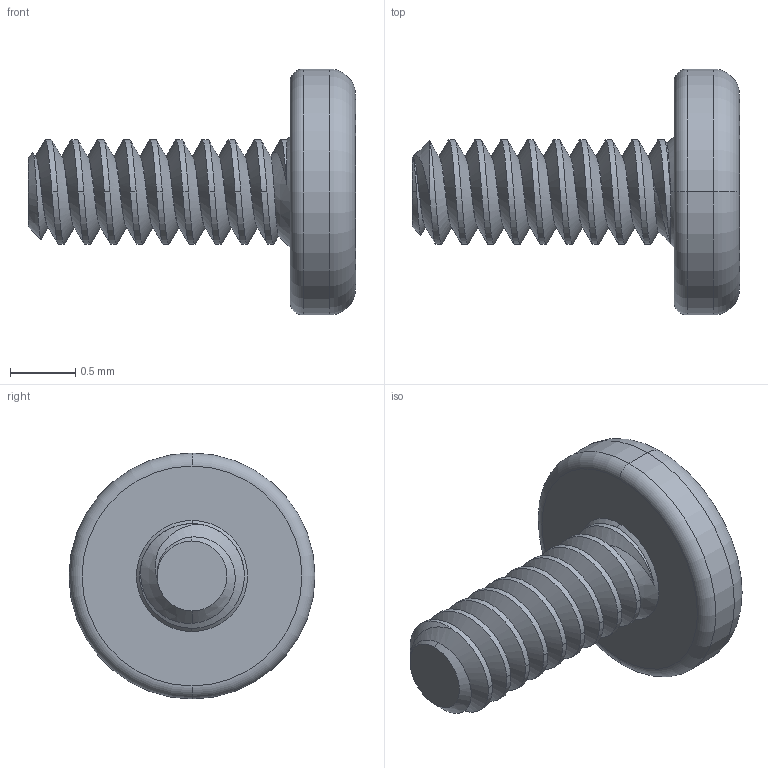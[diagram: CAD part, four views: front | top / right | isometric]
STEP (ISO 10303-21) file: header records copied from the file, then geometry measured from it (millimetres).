
FILE_DESCRIPTION (( 'STEP AP203' ), '1' );
FILE_NAME ('M08-20-M-SS-P-USMICROSCREW.STEP', '2014-04-21T20:54:38', ( 'Chromium' ), ( 'Microsoft' ), 'SwSTEP 2.0', 'SolidWorks 2013', '' );
FILE_SCHEMA (( 'CONFIG_CONTROL_DESIGN' ));
Length unit declared in the file: millimetre
Products named in the file (1): M08-20-M-SS-P-USMICROSCREW
Bounding box: 2.5 x 1.88 x 1.88 mm (x, y, z)
Volume: 2 mm3; surface area: 15.4 mm2
Topology: 1 solids, 1 shells, 82 faces, 220 edges, 138 vertices
Faces by surface type: cylinder 49, plane 16, cone 7, bspline 6, torus 4
Entity records: 4478 total; most frequent: CARTESIAN_POINT 2712, ORIENTED_EDGE 432, DIRECTION 275, EDGE_CURVE 216, VERTEX_POINT 138, AXIS2_PLACEMENT_3D 99, EDGE_LOOP 84, FACE_OUTER_BOUND 82
